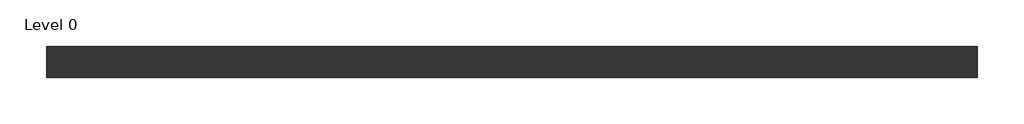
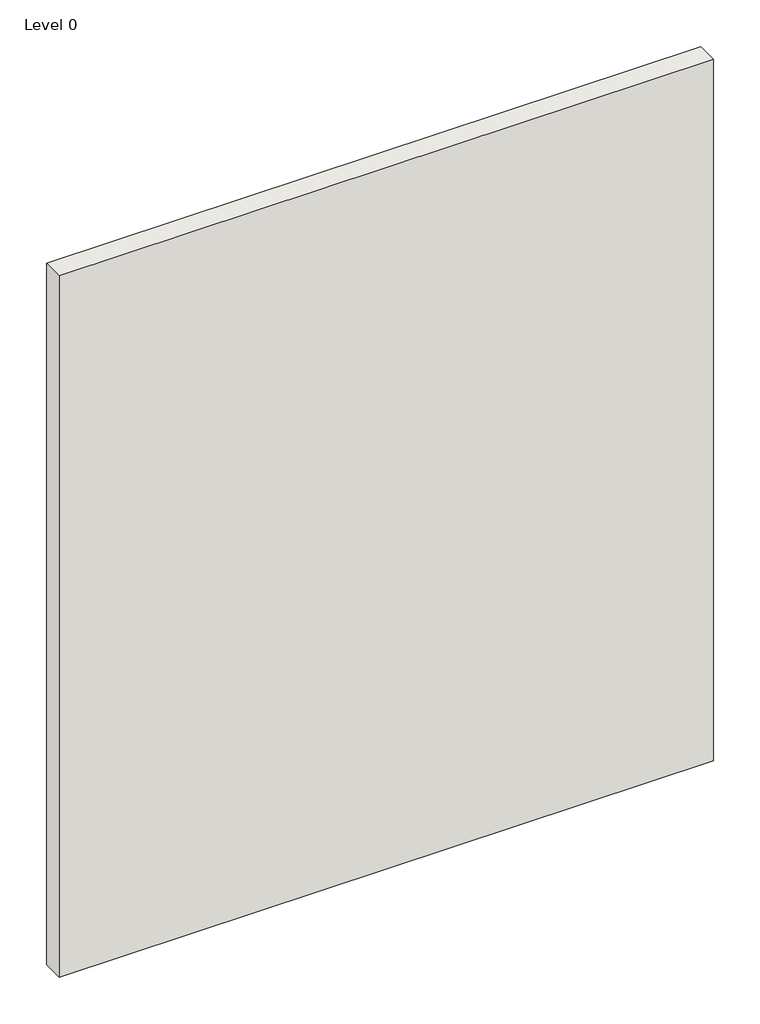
# One storey: 1 wall.
"""IFC4 building model written with IfcOpenShell, lengths in millimetres."""

from ifc_helpers import new_model, si_unit, origin, origin_with_axes, place, context, project, spatial, polyline, outline, extrude, element, save

model = new_model("IFC4")

# Units and contexts
model_context = context("Model", 3, world=origin())
ifc_project = project(units=[si_unit("LENGTHUNIT", "METRE", prefix="MILLI")], contexts=[model_context])

# Site, building, storey
site = spatial("IfcSite", under=ifc_project)
building = spatial("IfcBuilding", under=site)
storey = spatial("IfcBuildingStorey", under=building, Name="Level 0", Elevation=0.0)

# Wall
placement = place(None, origin())
element("IfcWall", 1, ObjectType="A206035 - GypWall CLASSIC", at=placement, inside=storey, context=model_context, shape_type="SweptSolid", body=[
    extrude(outline(polyline([(2116.0807354, 543.7205641), (-883.9192646, 543.7205641), (-883.9192646, 643.7205641), (2116.0807354, 643.7205641), (2116.0807354, 543.7205641)])), origin_with_axes(), (0.0, 0.0, 1.0), 3400.0),
])

save(model, "model.ifc")
